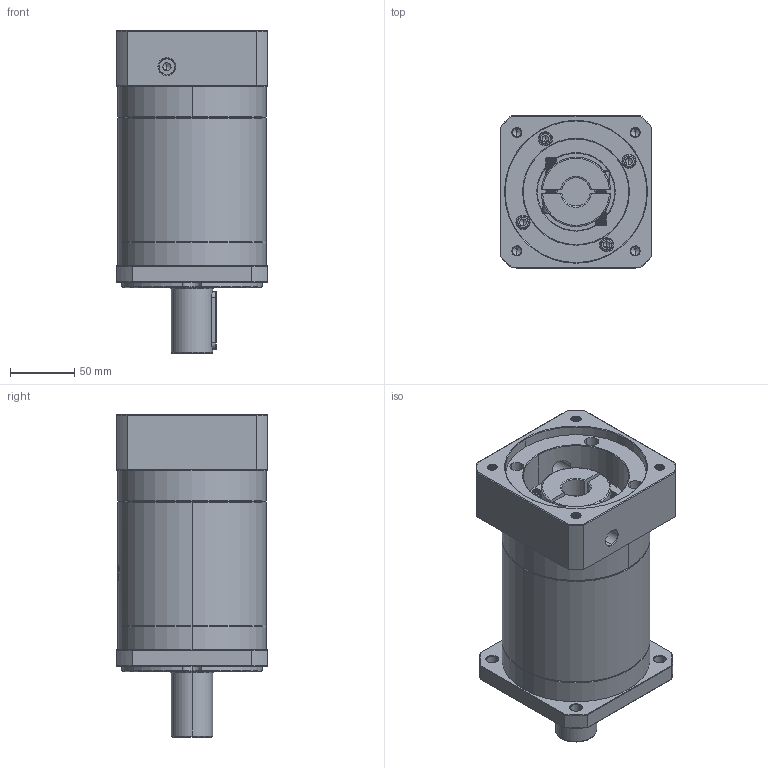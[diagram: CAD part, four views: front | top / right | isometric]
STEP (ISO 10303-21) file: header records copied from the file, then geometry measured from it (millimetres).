
FILE_DESCRIPTION (( 'STEP AP214' ), '1' );
FILE_NAME ('ZF120A-D32-L3-P2-22-110-130-M8.step', '2023-08-27T04:47:32', ( '' ), ( '' ), 'SwSTEP 2.0', 'SolidWorks 2016', '' );
FILE_SCHEMA (( 'AUTOMOTIVE_DESIGN' ));
Length unit declared in the file: millimetre
Products named in the file (1): ZF120A-D32-L3-P2-22-110-130-M8
Bounding box: 118 x 118 x 250.5 mm (x, y, z)
Volume: 2051049.4 mm3; surface area: 187617.7 mm2
Topology: 6 solids, 6 shells, 2235 faces, 5958 edges, 3828 vertices
Faces by surface type: plane 1034, bspline 439, cylinder 422, cone 340
Entity records: 123746 total; most frequent: CARTESIAN_POINT 48945, ORIENTED_EDGE 11856, DIRECTION 8594, EDGE_CURVE 5928, VERTEX_POINT 3828, VECTOR 3108, LINE 3108, AXIS2_PLACEMENT_3D 2743
